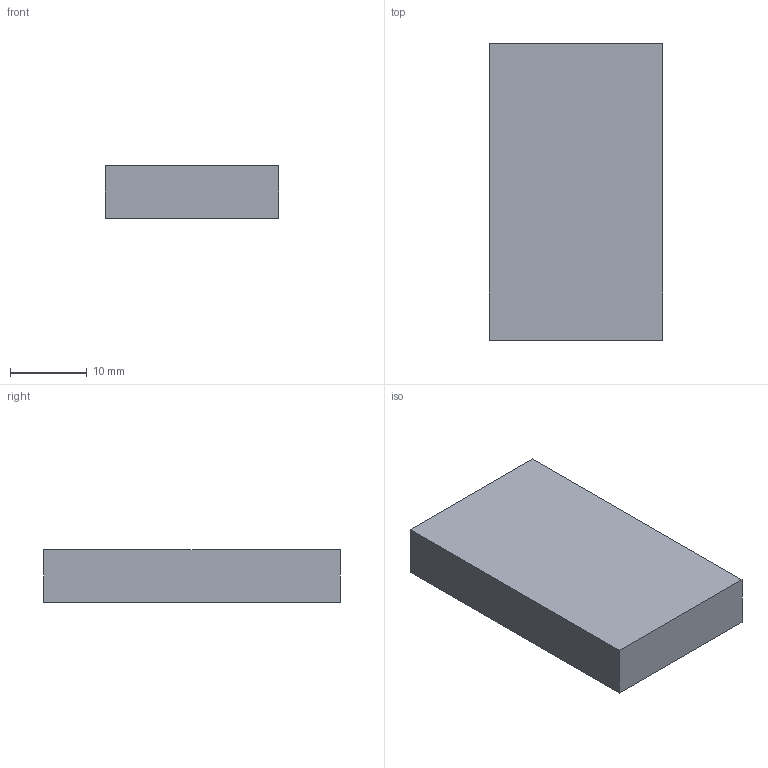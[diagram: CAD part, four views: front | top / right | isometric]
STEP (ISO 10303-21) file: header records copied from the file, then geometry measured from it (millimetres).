
FILE_DESCRIPTION(('Open CASCADE Model'),'2;1');
FILE_NAME('Open CASCADE Shape Model','2026-09-13T17:41:40',('Author'),( 'Open CASCADE'),'Open CASCADE STEP processor 7.8','Open CASCADE 7.8' ,'Unknown');
FILE_SCHEMA(('AUTOMOTIVE_DESIGN { 1 0 10303 214 1 1 1 1 }'));
Length unit declared in the file: millimetre
Products named in the file (1): Open CASCADE STEP translator 7.8 26
Bounding box: 22.6 x 38.6 x 6.8 mm (x, y, z)
Volume: 5128.5 mm3; surface area: 6637.8 mm2
Topology: 1 solids, 1 shells, 51 faces, 120 edges, 80 vertices
Faces by surface type: plane 51
Entity records: 3004 total; most frequent: CARTESIAN_POINT 492, DIRECTION 464, LINE 360, VECTOR 360, ORIENTED_EDGE 240, PCURVE 240, DEFINITIONAL_REPRESENTATION 240, EDGE_CURVE 120
